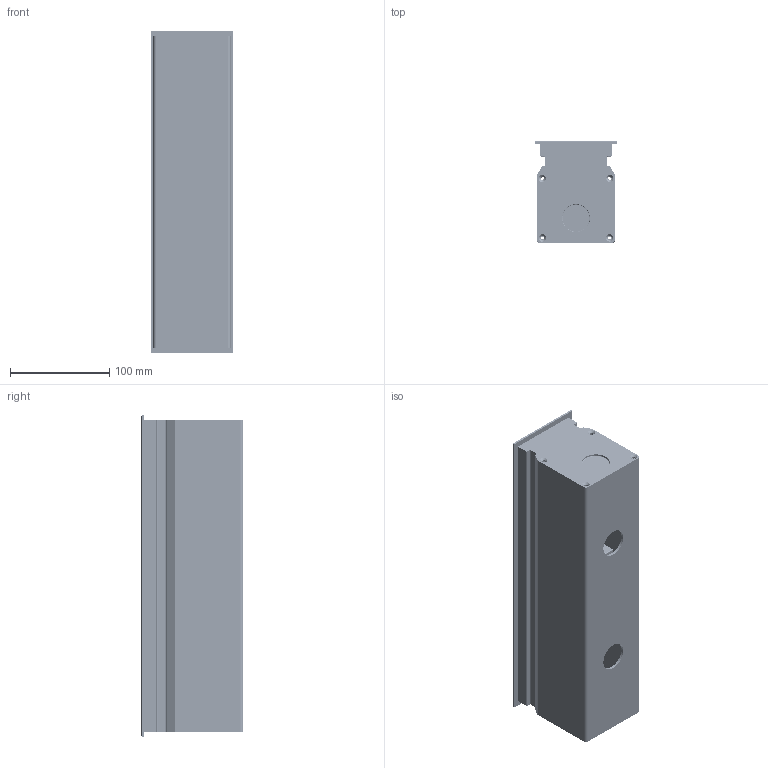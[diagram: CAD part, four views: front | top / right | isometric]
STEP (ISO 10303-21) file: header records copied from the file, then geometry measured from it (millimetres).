
FILE_DESCRIPTION((''),'2;1');
FILE_NAME('2RLB-06-YOUBIAN_ASM','2020-08-11T',('Administrator'),(''),'PRO/ENGINEER BY PARAMETRIC TECHNOLOGY CORPORATION, 2014000','PRO/ENGINEER BY PARAMETRIC TECHNOLOGY CORPORATION, 2014000','');
FILE_SCHEMA(('CONFIG_CONTROL_DESIGN'));
Products named in the file (29): 2RL-06DT-YOUBIAN; 2RLZUOYOUGAI; YUMAITONG-YUUBIAN-06; YUMAIJIANZUOYOUGAI; 2RQ-02; PRT0012; YUMAIJIAN-YBIAN-06_ASM; ZUOYOUGAIGUIJIAODIAN; XINGUANGYUANBAN; PRT0001; TOU-JING; TJ-ZJ_ASM; XINGUANGYUAN_ASM; YABAN; GESANZHAO-M; 2R-06MIANGAIYOUBIANKUANG; 2R-24BL; YABAN-00; ____-____7; ____2; PG9_____ASM_ASM_ASM_ASM; SCREW-M12_1; 2FL-A______; _____5_____2FL-A___; 2FL-A________; 2FL-A__________; ______5_______2FL-A_______ASM; _5_2FL-A__ASM; 2RLB-06-YOUBIAN_ASM
Assembly tree (38 placements, depth 4):
  2RLB-06-YOUBIAN_ASM
    2RL-06DT-YOUBIAN
    2RLZUOYOUGAI  x2
    YUMAIJIAN-YBIAN-06_ASM
      YUMAITONG-YUUBIAN-06
      YUMAIJIANZUOYOUGAI  x2
      2RQ-02
      PRT0012
    ZUOYOUGAIGUIJIAODIAN  x2
    XINGUANGYUAN_ASM
      XINGUANGYUANBAN
      TJ-ZJ_ASM  x6
        PRT0001
        TOU-JING
    YABAN
    GESANZHAO-M
    2R-06MIANGAIYOUBIANKUANG
    2R-24BL
    YABAN-00  x2
    PG9_____ASM_ASM_ASM_ASM
      ____-____7
      ____2
    _5_2FL-A__ASM
      ______5_______2FL-A_______ASM
        SCREW-M12_1  x2
        2FL-A______
        _____5_____2FL-A___
        2FL-A________
        2FL-A__________
Bounding box: 83 x 103.3 x 325 mm (x, y, z)
Volume: 800142.8 mm3; surface area: 553051.1 mm2
Topology: 36 solids, 36 shells, 10457 faces, 38226 edges, 20447 vertices
Faces by surface type: sphere 7522, plane 1750, cylinder 655, cone 252, extrusion 180, bspline 76, torus 22
Entity records: 133151 total; most frequent: CARTESIAN_POINT 50044, ORIENTED_EDGE 18608, DIRECTION 15468, EDGE_CURVE 9304, VERTEX_POINT 6126, AXIS2_PLACEMENT_3D 5886, VECTOR 3696, EDGE_LOOP 3650
